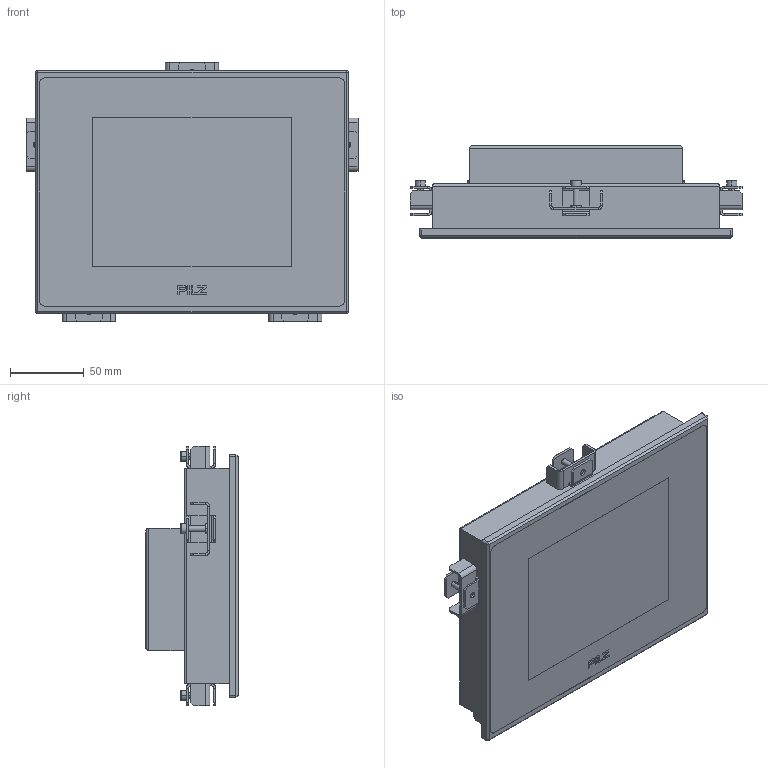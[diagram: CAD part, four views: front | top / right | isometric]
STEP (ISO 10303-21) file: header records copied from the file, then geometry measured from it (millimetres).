
FILE_DESCRIPTION((''),'2;1');
FILE_NAME('2022950_ASM','2016-06-20T',('rink'),(''),'PRO/ENGINEER BY PARAMETRIC TECHNOLOGY CORPORATION, 2015110','PRO/ENGINEER BY PARAMETRIC TECHNOLOGY CORPORATION, 2015110','');
FILE_SCHEMA(('AUTOMOTIVE_DESIGN { 1 0 10303 214 1 1 1 1 }'));
Length unit declared in the file: millimetre
Products named in the file (6): 2022949; 2007993; 2007991; 2000431; 2011570_ASM; 2022950_ASM
Assembly tree (9 placements, depth 3):
  2022950_ASM
    2022949
    2011570_ASM  x5
      2007993
      2007991
      2000431
Bounding box: 225 x 62.5 x 176 mm (x, y, z)
Volume: 1402448.5 mm3; surface area: 128113.6 mm2
Topology: 21 solids, 26 shells, 620 faces, 1431 edges, 898 vertices
Faces by surface type: plane 428, cylinder 158, torus 20, cone 14
Entity records: 8509 total; most frequent: CARTESIAN_POINT 1082, DIRECTION 983, ORIENTED_EDGE 876, PRESENTATION_STYLE_ASSIGNMENT 472, STYLED_ITEM 470, CURVE_STYLE 464, EDGE_CURVE 440, VECTOR 359
